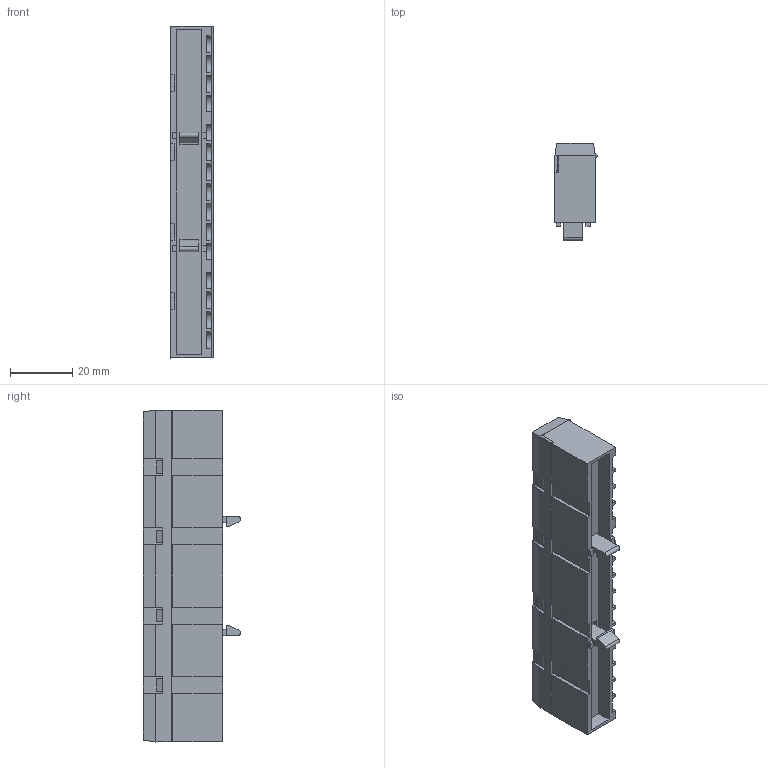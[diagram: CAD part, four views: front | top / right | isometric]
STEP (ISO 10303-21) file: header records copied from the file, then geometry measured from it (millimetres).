
FILE_DESCRIPTION (( 'STEP AP214' ), '1' );
FILE_NAME ('CS-L15.step', '2012-10-18T10:41:57', ( 'Radek Veselý' ), ( 'Siemens and Partners' ), 'SwSTEP 2.0', 'SolidWorks 2011', '' );
FILE_SCHEMA (( 'AUTOMOTIVE_DESIGN' ));
Length unit declared in the file: millimetre
Products named in the file (1): CS-L15
Bounding box: 13.6 x 31.3 x 107 mm (x, y, z)
Volume: 22023.4 mm3; surface area: 27638.3 mm2
Topology: 17 solids, 17 shells, 676 faces, 1865 edges, 1210 vertices
Faces by surface type: plane 418, cylinder 138, cone 90, bspline 30
Entity records: 31557 total; most frequent: CARTESIAN_POINT 6563, ORIENTED_EDGE 3730, DIRECTION 3433, EDGE_CURVE 1865, VECTOR 1287, LINE 1287, VERTEX_POINT 1210, AXIS2_PLACEMENT_3D 1073
